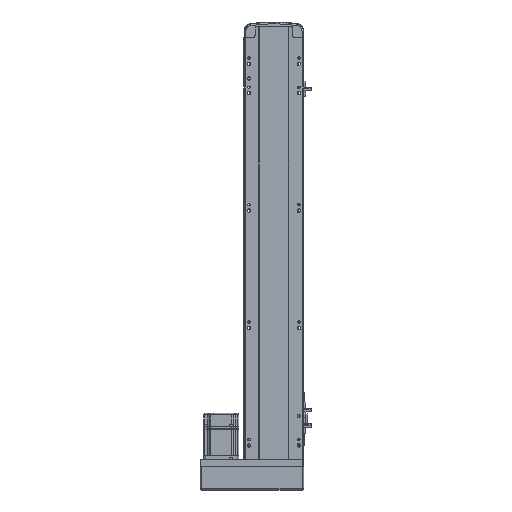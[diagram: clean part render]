
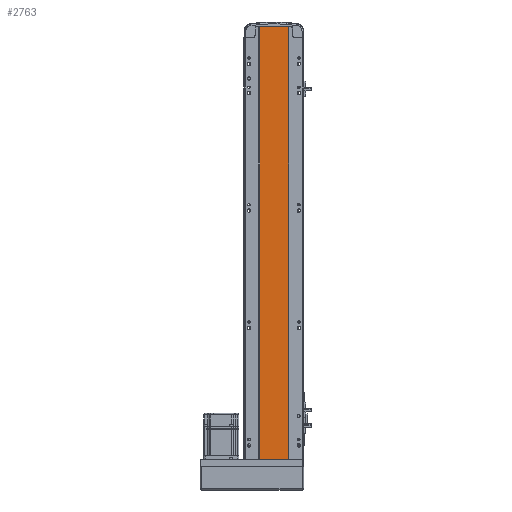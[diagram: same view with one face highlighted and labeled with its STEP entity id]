
A CAD part, front view. The second image highlights one B-rep face of the part: STEP entity #2763.
In plain terms, the highlighted planar face has unit normal (0, -1, 0).
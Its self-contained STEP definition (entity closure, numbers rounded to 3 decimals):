
#1501 = CARTESIAN_POINT ( 'NONE',  ( -24.5, 2., 737. ) ) ;
#2763 = ADVANCED_FACE ( 'NONE', ( #34062 ), #17669, .F. ) ;
#3942 = DIRECTION ( 'NONE',  ( 0., 1., 0. ) ) ;
#4854 = LINE ( 'NONE', #1501, #51877 ) ;
#6229 = EDGE_CURVE ( 'NONE', #54982, #21401, #4854, .T. ) ;
#8082 = VECTOR ( 'NONE', #57716, 1000. ) ;
#9632 = CARTESIAN_POINT ( 'NONE',  ( -24.5, 2., 737. ) ) ;
#10023 = ORIENTED_EDGE ( 'NONE', *, *, #6229, .T. ) ;
#13497 = CARTESIAN_POINT ( 'NONE',  ( 24.5, 2., 737. ) ) ;
#15016 = CARTESIAN_POINT ( 'NONE',  ( 24.5, 2., 0. ) ) ;
#15279 = VECTOR ( 'NONE', #33791, 1000. ) ;
#17669 = PLANE ( 'NONE',  #23846 ) ;
#18265 = ORIENTED_EDGE ( 'NONE', *, *, #33296, .T. ) ;
#20066 = EDGE_CURVE ( 'NONE', #54982, #51301, #55728, .T. ) ;
#21138 = LINE ( 'NONE', #58660, #48687 ) ;
#21401 = VERTEX_POINT ( 'NONE', #25825 ) ;
#23846 = AXIS2_PLACEMENT_3D ( 'NONE', #31603, #3942, #36319 ) ;
#25825 = CARTESIAN_POINT ( 'NONE',  ( -24.5, 2., 0. ) ) ;
#29021 = VERTEX_POINT ( 'NONE', #15016 ) ;
#30907 = DIRECTION ( 'NONE',  ( 0., 0., -1. ) ) ;
#31603 = CARTESIAN_POINT ( 'NONE',  ( 0., 2., 737. ) ) ;
#32905 = EDGE_LOOP ( 'NONE', ( #18265, #33793, #34638, #10023 ) ) ;
#33296 = EDGE_CURVE ( 'NONE', #21401, #29021, #49339, .T. ) ;
#33791 = DIRECTION ( 'NONE',  ( 1., 0., 0. ) ) ;
#33793 = ORIENTED_EDGE ( 'NONE', *, *, #43461, .F. ) ;
#34062 = FACE_OUTER_BOUND ( 'NONE', #32905, .T. ) ;
#34391 = DIRECTION ( 'NONE',  ( 0., 0., -1. ) ) ;
#34638 = ORIENTED_EDGE ( 'NONE', *, *, #20066, .F. ) ;
#36319 = DIRECTION ( 'NONE',  ( 0., 0., 1. ) ) ;
#43461 = EDGE_CURVE ( 'NONE', #51301, #29021, #21138, .T. ) ;
#48687 = VECTOR ( 'NONE', #30907, 1000. ) ;
#48945 = CARTESIAN_POINT ( 'NONE',  ( -24.5, 2., 737. ) ) ;
#49339 = LINE ( 'NONE', #57310, #8082 ) ;
#51301 = VERTEX_POINT ( 'NONE', #13497 ) ;
#51877 = VECTOR ( 'NONE', #34391, 1000. ) ;
#54982 = VERTEX_POINT ( 'NONE', #9632 ) ;
#55728 = LINE ( 'NONE', #48945, #15279 ) ;
#57310 = CARTESIAN_POINT ( 'NONE',  ( 0., 2., 0. ) ) ;
#57716 = DIRECTION ( 'NONE',  ( 1., 0., 0. ) ) ;
#58660 = CARTESIAN_POINT ( 'NONE',  ( 24.5, 2., 737. ) ) ;
